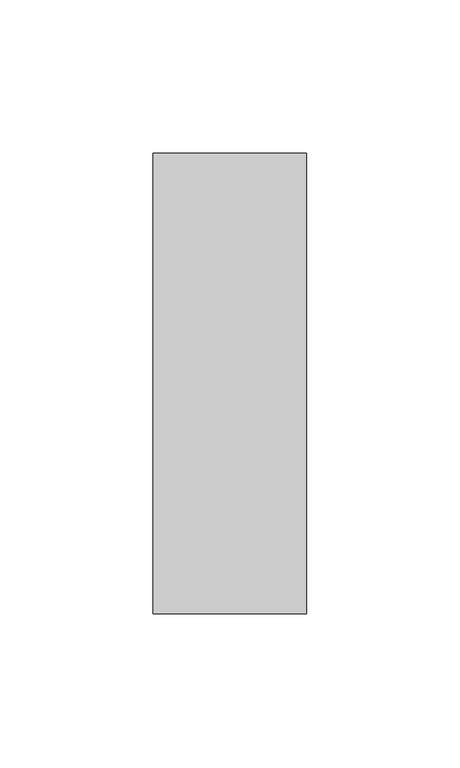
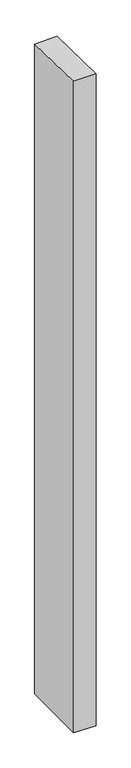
"""IFC4 building model written with IfcOpenShell, lengths in millimetres: member geometry, Прямоугольный импост : 50 x 150 мм."""

from ifc_helpers import new_model, si_unit, origin, place, context, project, spatial, faceted_brep, source, transform, mapped, element, save


def member_eaca9b24(model_context):
    return source(origin(), model_context, "Body", "Brep", [
        faceted_brep([(-25.0, 75.0, -2.0676704), (25.0, 75.0, -1.1259493), (25.0, 75.0, -1530.3513694), (-25.0, 75.0, -1529.5080298), (-25.0, -75.0, 1.1259493), (-25.0, -75.0, -1530.2858255), (25.0, -75.0, 2.0676704), (25.0, -75.0, -1531.1291651)], [[[0, 1, 2, 3]], [[4, 0, 3, 5]], [[6, 4, 5, 7]], [[1, 6, 7, 2]], [[1, 0, 4, 6]], [[2, 7, 5, 3]]]),
    ])


if __name__ == "__main__":
    model = new_model("IFC4")
    model_context = context("Model", 3, world=origin())
    ifc_project = project(units=[si_unit("LENGTHUNIT", "METRE", prefix="MILLI")], contexts=[model_context])
    site = spatial("IfcSite", under=ifc_project)
    building = spatial("IfcBuilding", under=site)
    placement = place(None, origin())
    member_shape = member_eaca9b24(model_context)
    element("IfcMember", 1, ObjectType="Прямоугольный импост : 50 x 150 мм", at=placement, inside=building, context=model_context, shape_type="MappedRepresentation", body=[
        mapped(member_shape, transform((0.0, 0.0, 0.0), x_axis=(1.0, 0.0, 0.0), y_axis=(0.0, 1.0, 0.0), z_axis=(0.0, 0.0, 1.0))),
    ])
    save(model, "model.ifc")
